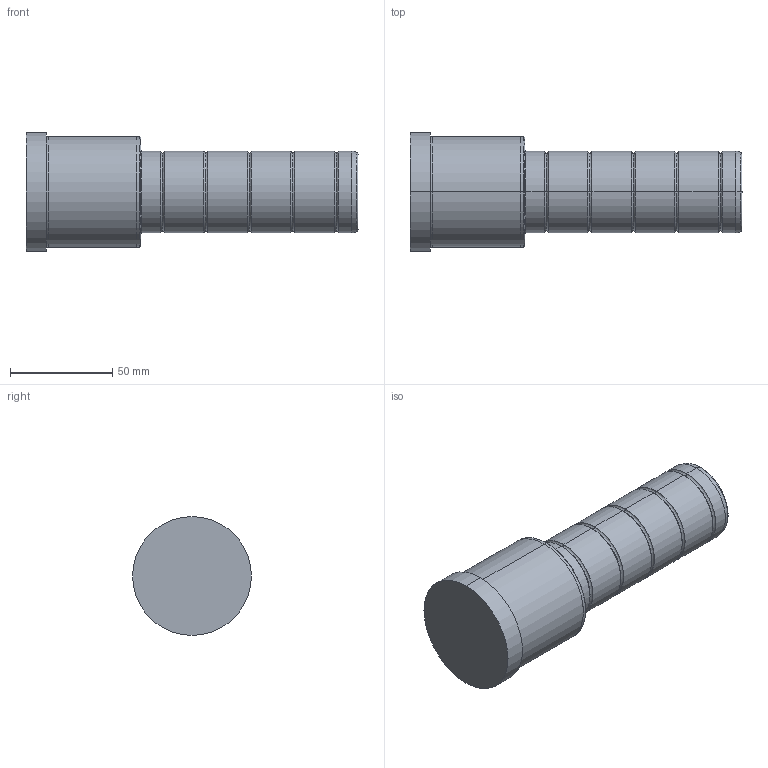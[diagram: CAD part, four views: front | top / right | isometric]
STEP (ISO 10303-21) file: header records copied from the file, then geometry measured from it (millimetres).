
FILE_DESCRIPTION( ( 'STEP AP203' ), '1' );
FILE_NAME( 'C:/Projects/D02 - 40x56x106.step', '2003-01-04T14:17:09', ( ' ' ), ( ' ' ), 'XStep 1.0', ' ', ' ' );
FILE_SCHEMA( ( 'CONFIG_CONTROL_DESIGN' ) );
Length unit declared in the file: metre
Products named in the file (1): 1
Bounding box: 162 x 58 x 58 mm (x, y, z)
Volume: 263904.1 mm3; surface area: 28693 mm2
Topology: 1 solids, 1 shells, 54 faces, 106 edges, 58 vertices
Faces by surface type: bspline 30, revolution 24
Entity records: 1721 total; most frequent: CARTESIAN_POINT 717, ORIENTED_EDGE 212, DIRECTION 166, EDGE_CURVE 106, AXIS2_PLACEMENT_3D 59, EDGE_LOOP 58, VERTEX_POINT 58, CIRCLE 58
